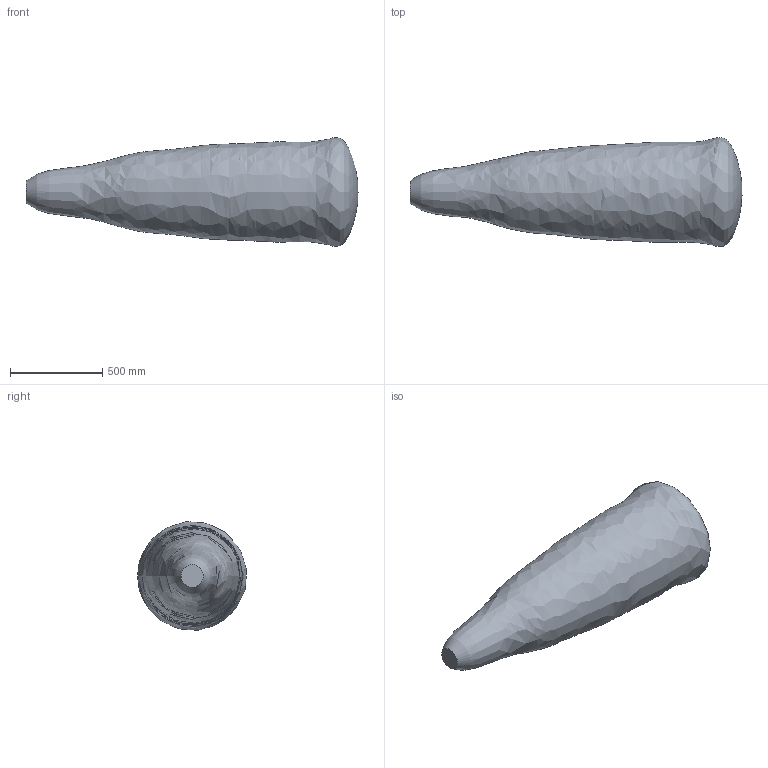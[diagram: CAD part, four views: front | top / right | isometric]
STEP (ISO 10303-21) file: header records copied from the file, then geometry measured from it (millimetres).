
FILE_DESCRIPTION((''),'2;1');
FILE_NAME('C:\Dokumente und Einstellungen\Kramp\Eigene Dateien\Microsonic Nacharbeit 2\restliche Änderungen\STP\Schallfeld Betriebstastw 1300mm Platte.stp','2005-08-11T08:22:25',('Kramp'),(''),'Autodesk Inventor 7','Autodesk Inventor 7','');
FILE_SCHEMA(('AUTOMOTIVE_DESIGN { 1 0 10303 214 1 1 1 1 }'));
Length unit declared in the file: millimetre
Products named in the file (1): Schallfeld Betriebstastw 1300mm Platte
Bounding box: 1800.96 x 590.41 x 587.37 mm (x, y, z)
Volume: 288449938.6 mm3; surface area: 2676989.5 mm2
Topology: 1 solids, 1 shells, 2 faces, 3 edges, 2 vertices
Faces by surface type: bspline 1, plane 1
Entity records: 178 total; most frequent: CARTESIAN_POINT 125, DIRECTION 6, ORIENTED_EDGE 4, AXIS2_PLACEMENT_3D 3, VERTEX_POINT 2, EDGE_CURVE 2, EDGE_LOOP 2, FACE_OUTER_BOUND 2
